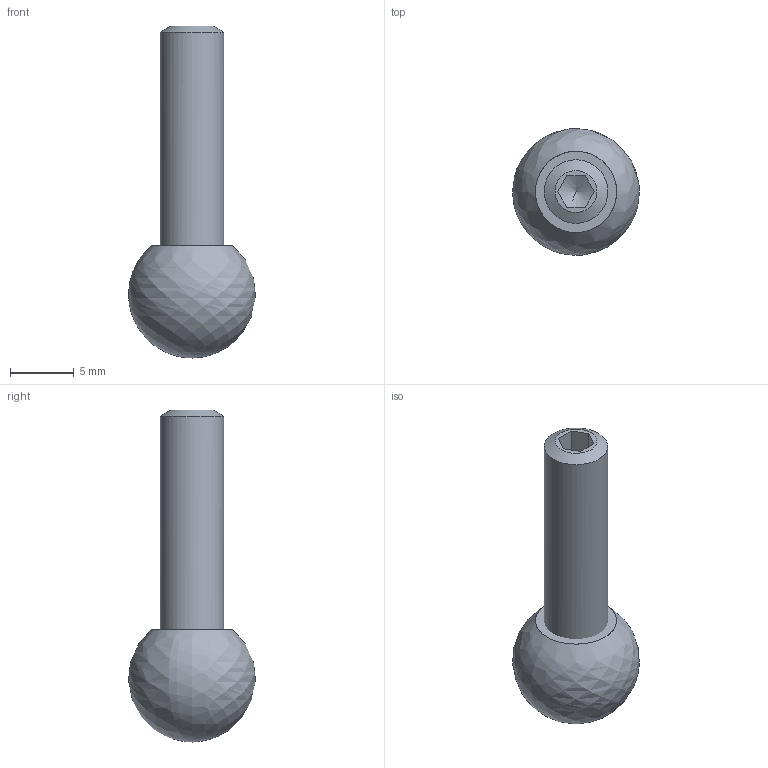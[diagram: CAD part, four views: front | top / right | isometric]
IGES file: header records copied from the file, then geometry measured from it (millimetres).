
Global section: file name: 22.70; native system: Autodesk Inventor 2016; preprocessor: unknown; author: CAD2; date: 20160830.111435; units: millimetre
Bounding box: 9.99 x 9.99 x 26.14 mm (x, y, z)
Volume: 834.3 mm3; surface area: 1119.4 mm2
Topology: 3 solids, 3 shells, 27 faces, 61 edges, 38 vertices
Faces by surface type: bspline 27
